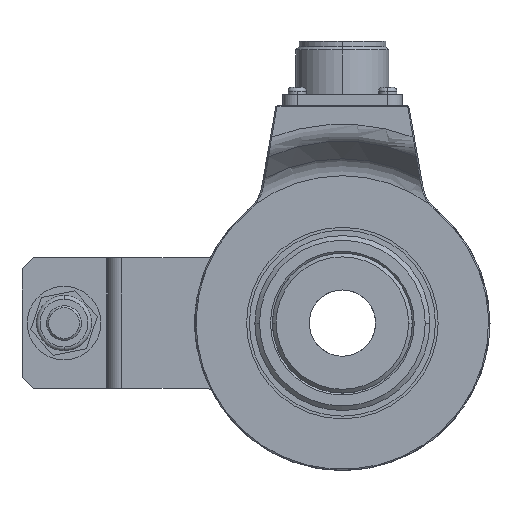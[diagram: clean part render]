
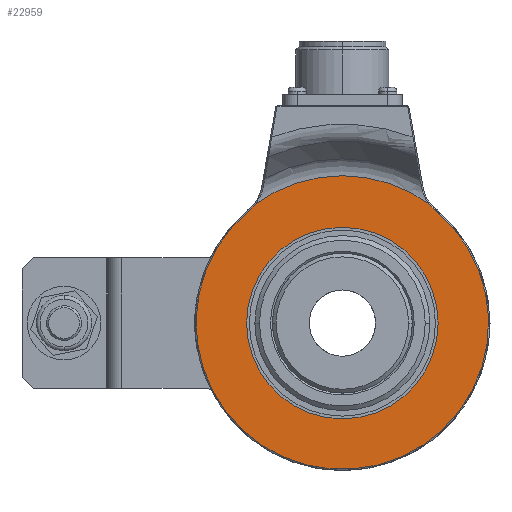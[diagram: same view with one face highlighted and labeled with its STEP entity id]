
A CAD part, left-side view. The second image highlights one B-rep face of the part: STEP entity #22959.
In plain terms, the highlighted planar face has unit normal (-1, 0, 0).
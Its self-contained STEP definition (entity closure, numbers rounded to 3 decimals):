
#29 = DIRECTION ( 'NONE',  ( 0., 0., -1. ) ) ;
#123 = AXIS2_PLACEMENT_3D ( 'NONE', #5034, #25099, #16151 ) ;
#513 = ORIENTED_EDGE ( 'NONE', *, *, #21169, .F. ) ;
#902 = DIRECTION ( 'NONE',  ( -1., 0., 0. ) ) ;
#1014 = EDGE_CURVE ( 'NONE', #7769, #16708, #16745, .T. ) ;
#1148 = DIRECTION ( 'NONE',  ( 0., 0., -1. ) ) ;
#1577 = VERTEX_POINT ( 'NONE', #17639 ) ;
#2439 = AXIS2_PLACEMENT_3D ( 'NONE', #25672, #13164, #29 ) ;
#2764 = DIRECTION ( 'NONE',  ( 0., 0., -1. ) ) ;
#3690 = DIRECTION ( 'NONE',  ( -1., 0., 0. ) ) ;
#3807 = EDGE_LOOP ( 'NONE', ( #513, #6563 ) ) ;
#4405 = EDGE_CURVE ( 'NONE', #1577, #7769, #13355, .T. ) ;
#4755 = CARTESIAN_POINT ( 'NONE',  ( -26., 25.207, 30.671 ) ) ;
#5034 = CARTESIAN_POINT ( 'NONE',  ( -26., 31.746, 38.629 ) ) ;
#5190 = ORIENTED_EDGE ( 'NONE', *, *, #1014, .T. ) ;
#6563 = ORIENTED_EDGE ( 'NONE', *, *, #7860, .F. ) ;
#6965 = VERTEX_POINT ( 'NONE', #20107 ) ;
#7187 = CIRCLE ( 'NONE', #26290, 26. ) ;
#7769 = VERTEX_POINT ( 'NONE', #4755 ) ;
#7860 = EDGE_CURVE ( 'NONE', #6965, #27817, #26140, .T. ) ;
#9202 = VERTEX_POINT ( 'NONE', #22395 ) ;
#9264 = CIRCLE ( 'NONE', #2439, 40. ) ;
#10873 = AXIS2_PLACEMENT_3D ( 'NONE', #11280, #25081, #1148 ) ;
#11148 = EDGE_LOOP ( 'NONE', ( #5190, #15965, #17734, #21965 ) ) ;
#11280 = CARTESIAN_POINT ( 'NONE',  ( -26., -31.746, 38.629 ) ) ;
#11328 = DIRECTION ( 'NONE',  ( 0., 0., -1. ) ) ;
#11742 = CARTESIAN_POINT ( 'NONE',  ( -26., 0., 0. ) ) ;
#12709 = CIRCLE ( 'NONE', #10873, 10.3 ) ;
#13164 = DIRECTION ( 'NONE',  ( -1., 0., 0. ) ) ;
#13355 = CIRCLE ( 'NONE', #123, 10.3 ) ;
#13493 = DIRECTION ( 'NONE',  ( -1., 0., 0. ) ) ;
#13893 = AXIS2_PLACEMENT_3D ( 'NONE', #22969, #23104, #23254 ) ;
#14122 = AXIS2_PLACEMENT_3D ( 'NONE', #24292, #13493, #11328 ) ;
#15622 = PLANE ( 'NONE',  #14122 ) ;
#15788 = EDGE_CURVE ( 'NONE', #16708, #9202, #12709, .T. ) ;
#15965 = ORIENTED_EDGE ( 'NONE', *, *, #15788, .T. ) ;
#16151 = DIRECTION ( 'NONE',  ( 0., 0., -1. ) ) ;
#16708 = VERTEX_POINT ( 'NONE', #23859 ) ;
#16745 = CIRCLE ( 'NONE', #26281, 39.7 ) ;
#17639 = CARTESIAN_POINT ( 'NONE',  ( -26., 23.654, 32.257 ) ) ;
#17734 = ORIENTED_EDGE ( 'NONE', *, *, #19418, .T. ) ;
#17903 = FACE_BOUND ( 'NONE', #3807, .T. ) ;
#19418 = EDGE_CURVE ( 'NONE', #9202, #1577, #9264, .T. ) ;
#19884 = FACE_OUTER_BOUND ( 'NONE', #11148, .T. ) ;
#20107 = CARTESIAN_POINT ( 'NONE',  ( -26., 0., 26. ) ) ;
#21065 = DIRECTION ( 'NONE',  ( 0., 0., -1. ) ) ;
#21169 = EDGE_CURVE ( 'NONE', #27817, #6965, #7187, .T. ) ;
#21965 = ORIENTED_EDGE ( 'NONE', *, *, #4405, .T. ) ;
#22395 = CARTESIAN_POINT ( 'NONE',  ( -26., -23.654, 32.257 ) ) ;
#22959 = ADVANCED_FACE ( 'NONE', ( #17903, #19884 ), #15622, .T. ) ;
#22969 = CARTESIAN_POINT ( 'NONE',  ( -26., 0., 0. ) ) ;
#23104 = DIRECTION ( 'NONE',  ( -1., 0., 0. ) ) ;
#23197 = CARTESIAN_POINT ( 'NONE',  ( -26., 0., 0. ) ) ;
#23254 = DIRECTION ( 'NONE',  ( 0., 0., -1. ) ) ;
#23859 = CARTESIAN_POINT ( 'NONE',  ( -26., -25.207, 30.671 ) ) ;
#24292 = CARTESIAN_POINT ( 'NONE',  ( -26., 0., 0. ) ) ;
#25081 = DIRECTION ( 'NONE',  ( 1., 0., 0. ) ) ;
#25099 = DIRECTION ( 'NONE',  ( 1., 0., 0. ) ) ;
#25169 = CARTESIAN_POINT ( 'NONE',  ( -26., 0., -26. ) ) ;
#25672 = CARTESIAN_POINT ( 'NONE',  ( -26., 0., 0. ) ) ;
#26140 = CIRCLE ( 'NONE', #13893, 26. ) ;
#26281 = AXIS2_PLACEMENT_3D ( 'NONE', #11742, #902, #2764 ) ;
#26290 = AXIS2_PLACEMENT_3D ( 'NONE', #23197, #3690, #21065 ) ;
#27817 = VERTEX_POINT ( 'NONE', #25169 ) ;
